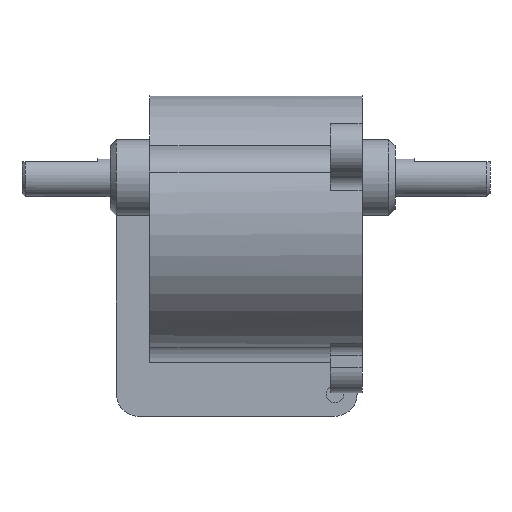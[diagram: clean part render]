
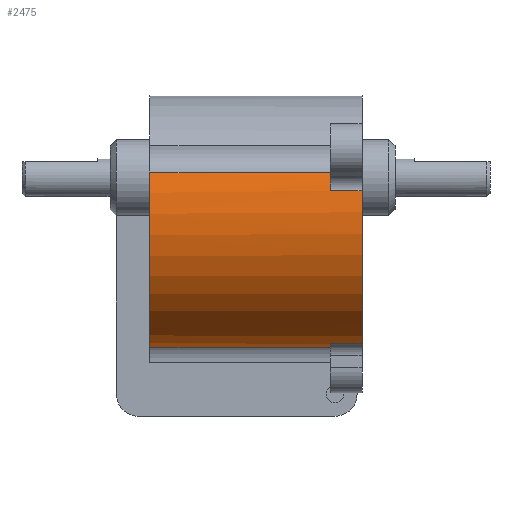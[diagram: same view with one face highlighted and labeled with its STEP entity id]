
A CAD part, left-side view. The second image highlights one B-rep face of the part: STEP entity #2475.
In plain terms, the highlighted cylindrical face has radius 20 mm (diameter 40 mm), a partial arc.
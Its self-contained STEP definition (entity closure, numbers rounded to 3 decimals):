
#170=CARTESIAN_POINT('',(-20.682,-16.75,10.247));
#171=VERTEX_POINT('',#170);
#179=CARTESIAN_POINT('',(-6.745,-16.75,-13.892));
#180=VERTEX_POINT('',#179);
#181=CARTESIAN_POINT('',(-1.291,-16.75,5.35));
#182=DIRECTION('',(0.0,-1.0,0.0));
#183=DIRECTION('',(1.0,0.0,0.0));
#184=AXIS2_PLACEMENT_3D('',#181,#182,#183);
#185=CIRCLE('',#184,20.0);
#186=EDGE_CURVE('',#171,#180,#185,.T.);
#1287=CARTESIAN_POINT('',(-6.745,-11.75,-13.892));
#1288=VERTEX_POINT('',#1287);
#1296=CARTESIAN_POINT('',(-3.753,-11.75,-14.498));
#1297=VERTEX_POINT('',#1296);
#1298=CARTESIAN_POINT('',(-1.291,-11.75,5.35));
#1299=DIRECTION('',(0.0,1.0,0.0));
#1300=DIRECTION('',(1.0,0.0,0.0));
#1301=AXIS2_PLACEMENT_3D('',#1298,#1299,#1300);
#1302=CIRCLE('',#1301,20.0);
#1303=EDGE_CURVE('',#1297,#1288,#1302,.T.);
#1331=CARTESIAN_POINT('',(-19.711,16.75,13.141));
#1332=VERTEX_POINT('',#1331);
#1364=CARTESIAN_POINT('',(-3.753,16.75,-14.498));
#1365=VERTEX_POINT('',#1364);
#1373=CARTESIAN_POINT('',(-1.291,16.75,5.35));
#1374=DIRECTION('',(0.0,-1.0,0.0));
#1375=DIRECTION('',(1.0,0.0,0.0));
#1376=AXIS2_PLACEMENT_3D('',#1373,#1374,#1375);
#1377=CIRCLE('',#1376,20.0);
#1378=EDGE_CURVE('',#1332,#1365,#1377,.T.);
#1399=CARTESIAN_POINT('',(-20.682,-11.75,10.247));
#1400=VERTEX_POINT('',#1399);
#1401=CARTESIAN_POINT('',(-19.711,-11.75,13.141));
#1402=VERTEX_POINT('',#1401);
#1403=CARTESIAN_POINT('',(-1.291,-11.75,5.35));
#1404=DIRECTION('',(0.0,1.0,0.0));
#1405=DIRECTION('',(1.0,0.0,0.0));
#1406=AXIS2_PLACEMENT_3D('',#1403,#1404,#1405);
#1407=CIRCLE('',#1406,20.0);
#1408=EDGE_CURVE('',#1400,#1402,#1407,.T.);
#1478=CARTESIAN_POINT('',(-3.753,16.75,-14.498));
#1479=DIRECTION('',(0.0,-1.0,0.0));
#1480=VECTOR('',#1479,28.5);
#1481=LINE('',#1478,#1480);
#1482=EDGE_CURVE('',#1365,#1297,#1481,.T.);
#1493=CARTESIAN_POINT('',(-19.711,-11.75,13.141));
#1494=DIRECTION('',(0.0,1.0,0.0));
#1495=VECTOR('',#1494,28.5);
#1496=LINE('',#1493,#1495);
#1497=EDGE_CURVE('',#1402,#1332,#1496,.T.);
#2446=CARTESIAN_POINT('',(-6.745,-16.75,-13.892));
#2447=DIRECTION('',(0.0,1.0,0.0));
#2448=VECTOR('',#2447,5.0);
#2449=LINE('',#2446,#2448);
#2450=EDGE_CURVE('',#180,#1288,#2449,.T.);
#2455=CARTESIAN_POINT('',(-1.291,-16.75,5.35));
#2456=DIRECTION('',(0.0,1.0,0.0));
#2457=DIRECTION('',(1.0,0.0,0.0));
#2458=AXIS2_PLACEMENT_3D('',#2455,#2456,#2457);
#2459=CYLINDRICAL_SURFACE('',#2458,20.0);
#2460=CARTESIAN_POINT('',(-20.682,-11.75,10.247));
#2461=DIRECTION('',(0.0,-1.0,0.0));
#2462=VECTOR('',#2461,5.0);
#2463=LINE('',#2460,#2462);
#2464=EDGE_CURVE('',#1400,#171,#2463,.T.);
#2465=ORIENTED_EDGE('',*,*,#2464,.F.);
#2466=ORIENTED_EDGE('',*,*,#1408,.T.);
#2467=ORIENTED_EDGE('',*,*,#1497,.T.);
#2468=ORIENTED_EDGE('',*,*,#1378,.T.);
#2469=ORIENTED_EDGE('',*,*,#1482,.T.);
#2470=ORIENTED_EDGE('',*,*,#1303,.T.);
#2471=ORIENTED_EDGE('',*,*,#2450,.F.);
#2472=ORIENTED_EDGE('',*,*,#186,.F.);
#2473=EDGE_LOOP('',(#2465,#2466,#2467,#2468,#2469,#2470,#2471,#2472));
#2474=FACE_OUTER_BOUND('',#2473,.T.);
#2475=ADVANCED_FACE('',(#2474),#2459,.T.);
